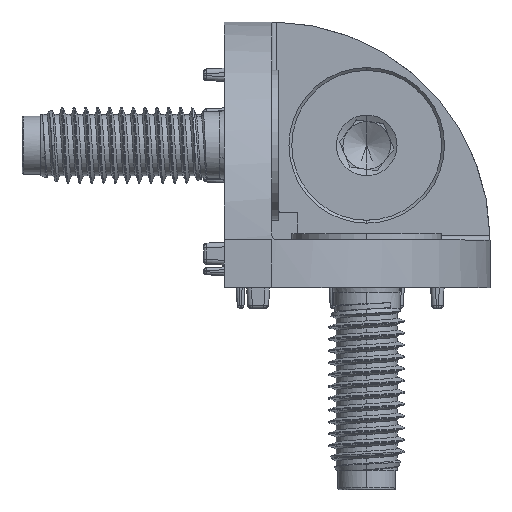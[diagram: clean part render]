
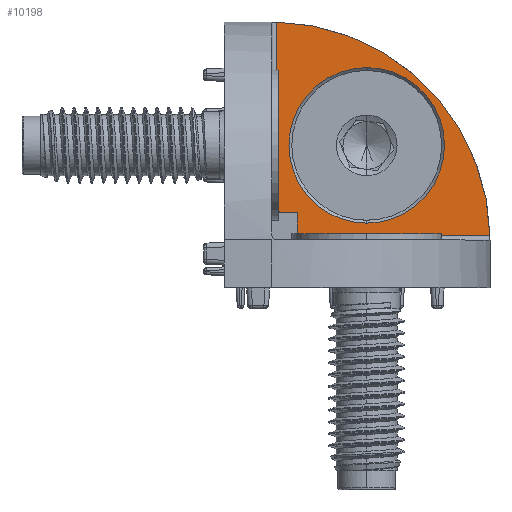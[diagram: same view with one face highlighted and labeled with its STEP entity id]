
A CAD part, top view. The second image highlights one B-rep face of the part: STEP entity #10198.
In plain terms, the highlighted planar face has unit normal (0, 0, 1).
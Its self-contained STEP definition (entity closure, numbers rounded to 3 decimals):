
#526 = VERTEX_POINT ( 'NONE', #27524 ) ;
#1411 = VECTOR ( 'NONE', #21928, 1000. ) ;
#1666 = ORIENTED_EDGE ( 'NONE', *, *, #22962, .F. ) ;
#1839 = CARTESIAN_POINT ( 'NONE',  ( 5., 8., 5. ) ) ;
#1874 = DIRECTION ( 'NONE',  ( 0., 1., 0. ) ) ;
#1945 = VERTEX_POINT ( 'NONE', #10462 ) ;
#2434 = LINE ( 'NONE', #14384, #14039 ) ;
#2704 = ORIENTED_EDGE ( 'NONE', *, *, #15743, .F. ) ;
#2884 = CIRCLE ( 'NONE', #19302, 23. ) ;
#3132 = CARTESIAN_POINT ( 'NONE',  ( 5., 5., 5. ) ) ;
#3488 = ORIENTED_EDGE ( 'NONE', *, *, #22713, .T. ) ;
#5194 = DIRECTION ( 'NONE',  ( 0., 0., -1. ) ) ;
#5315 = EDGE_LOOP ( 'NONE', ( #8380, #1666, #6123, #2704, #21477 ) ) ;
#5345 = DIRECTION ( 'NONE',  ( 0., 1., 0. ) ) ;
#5919 = VECTOR ( 'NONE', #1874, 1000. ) ;
#6123 = ORIENTED_EDGE ( 'NONE', *, *, #18510, .F. ) ;
#6478 = CARTESIAN_POINT ( 'NONE',  ( 15., 15., 5. ) ) ;
#7260 = LINE ( 'NONE', #19704, #1411 ) ;
#8108 = VERTEX_POINT ( 'NONE', #19931 ) ;
#8380 = ORIENTED_EDGE ( 'NONE', *, *, #10670, .T. ) ;
#8566 = PLANE ( 'NONE',  #21852 ) ;
#8674 = DIRECTION ( 'NONE',  ( 0., -1., 0. ) ) ;
#9128 = AXIS2_PLACEMENT_3D ( 'NONE', #6478, #21687, #8674 ) ;
#9139 = EDGE_CURVE ( 'NONE', #526, #8108, #22590, .T. ) ;
#9322 = CIRCLE ( 'NONE', #9128, 8.2 ) ;
#10046 = DIRECTION ( 'NONE',  ( -1., 0., 0. ) ) ;
#10198 = ADVANCED_FACE ( 'NONE', ( #24219, #18443 ), #8566, .F. ) ;
#10462 = CARTESIAN_POINT ( 'NONE',  ( 15., 6.8, 5. ) ) ;
#10670 = EDGE_CURVE ( 'NONE', #526, #23988, #10969, .T. ) ;
#10747 = DIRECTION ( 'NONE',  ( 0., 1., 0. ) ) ;
#10969 = LINE ( 'NONE', #1839, #21848 ) ;
#12062 = EDGE_LOOP ( 'NONE', ( #3488, #12980 ) ) ;
#12980 = ORIENTED_EDGE ( 'NONE', *, *, #20890, .T. ) ;
#14039 = VECTOR ( 'NONE', #10046, 1000. ) ;
#14384 = CARTESIAN_POINT ( 'NONE',  ( 5., 5.5, 5. ) ) ;
#15743 = EDGE_CURVE ( 'NONE', #8108, #16723, #2884, .T. ) ;
#16030 = CIRCLE ( 'NONE', #16046, 8.2 ) ;
#16046 = AXIS2_PLACEMENT_3D ( 'NONE', #18197, #5194, #20388 ) ;
#16723 = VERTEX_POINT ( 'NONE', #19479 ) ;
#17069 = DIRECTION ( 'NONE',  ( 0.999, -0.035, 0. ) ) ;
#18197 = CARTESIAN_POINT ( 'NONE',  ( 15., 15., 5. ) ) ;
#18338 = DIRECTION ( 'NONE',  ( 0., 0., -1. ) ) ;
#18443 = FACE_BOUND ( 'NONE', #12062, .T. ) ;
#18510 = EDGE_CURVE ( 'NONE', #16723, #19336, #2434, .T. ) ;
#19292 = CARTESIAN_POINT ( 'NONE',  ( 5.5, 5., 5. ) ) ;
#19302 = AXIS2_PLACEMENT_3D ( 'NONE', #3132, #18338, #5345 ) ;
#19336 = VERTEX_POINT ( 'NONE', #25455 ) ;
#19479 = CARTESIAN_POINT ( 'NONE',  ( 27.995, 5.5, 5. ) ) ;
#19704 = CARTESIAN_POINT ( 'NONE',  ( 7.7, 5., 5. ) ) ;
#19931 = CARTESIAN_POINT ( 'NONE',  ( 5.5, 27.995, 5. ) ) ;
#20388 = DIRECTION ( 'NONE',  ( 0., -1., 0. ) ) ;
#20890 = EDGE_CURVE ( 'NONE', #23974, #1945, #9322, .T. ) ;
#21477 = ORIENTED_EDGE ( 'NONE', *, *, #9139, .F. ) ;
#21687 = DIRECTION ( 'NONE',  ( 0., 0., -1. ) ) ;
#21848 = VECTOR ( 'NONE', #17069, 1000. ) ;
#21852 = AXIS2_PLACEMENT_3D ( 'NONE', #28020, #23753, #10747 ) ;
#21928 = DIRECTION ( 'NONE',  ( 0., 1., 0. ) ) ;
#22590 = LINE ( 'NONE', #19292, #5919 ) ;
#22713 = EDGE_CURVE ( 'NONE', #1945, #23974, #16030, .T. ) ;
#22962 = EDGE_CURVE ( 'NONE', #19336, #23988, #7260, .T. ) ;
#23753 = DIRECTION ( 'NONE',  ( 0., 0., -1. ) ) ;
#23974 = VERTEX_POINT ( 'NONE', #25812 ) ;
#23988 = VERTEX_POINT ( 'NONE', #25725 ) ;
#24219 = FACE_OUTER_BOUND ( 'NONE', #5315, .T. ) ;
#25455 = CARTESIAN_POINT ( 'NONE',  ( 7.7, 5.5, 5. ) ) ;
#25725 = CARTESIAN_POINT ( 'NONE',  ( 7.7, 7.906, 5. ) ) ;
#25812 = CARTESIAN_POINT ( 'NONE',  ( 15., 23.2, 5. ) ) ;
#27524 = CARTESIAN_POINT ( 'NONE',  ( 5.5, 7.983, 5. ) ) ;
#28020 = CARTESIAN_POINT ( 'NONE',  ( 5., 5., 5. ) ) ;
